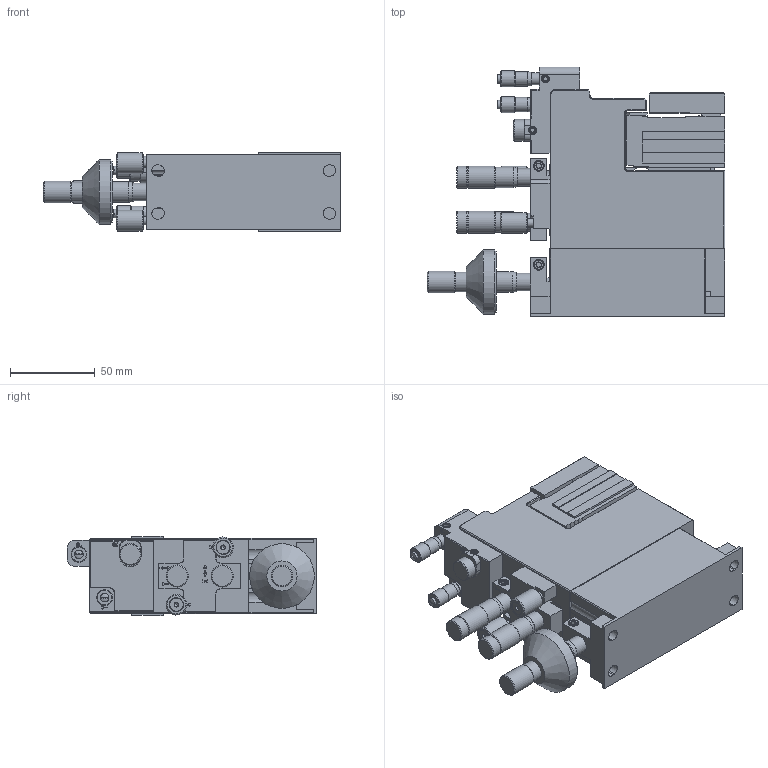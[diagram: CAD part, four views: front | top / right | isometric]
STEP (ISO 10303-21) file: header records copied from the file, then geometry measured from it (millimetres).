
FILE_DESCRIPTION((''),'1');
FILE_NAME('P1-L-H-I','2021-03-26T13:44:42',('JD'),('Luminos'),'Spatial Interop R20 SP1','Kubotek KeyCreator V9.0.3 (16864)',' ');
FILE_SCHEMA(('automotive_design'));
Length unit declared in the file: inch
Products named in the file (2): 1; 2
Bounding box: 175.18 x 147.07 x 46.99 mm (x, y, z)
Volume: 661650.6 mm3; surface area: 92074.5 mm2
Topology: 2 solids, 3 shells, 924 faces, 2160 edges, 1345 vertices
Faces by surface type: plane 556, cone 189, cylinder 175, sphere 4
Full cylindrical faces by diameter (mm): 2.05 x25, 4.039 x3, 4.648 x8, 4.762 x6, 4.775 x2, 4.826 x2, 5 x3, 5.08 x2, 5.74 x4, 6.35 x3, 7.01 x2, 7.144 x1, 8.509 x2, 9.322 x2, 9.5 x2, 9.525 x1, 10.49 x3, 11.684 x1, 12.116 x3, 12.192 x2, 12.7 x2, 13.081 x4, 38.1 x1
Entity records: 45673 total; most frequent: CARTESIAN_POINT 4624, DIRECTION 4246, ORIENTED_EDGE 3874, PRESENTATION_STYLE_ASSIGNMENT 3789, COLOUR_RGB 3789, STYLED_ITEM 2863, CURVE_STYLE 2863, DRAUGHTING_PRE_DEFINED_CURVE_FONT 2863
